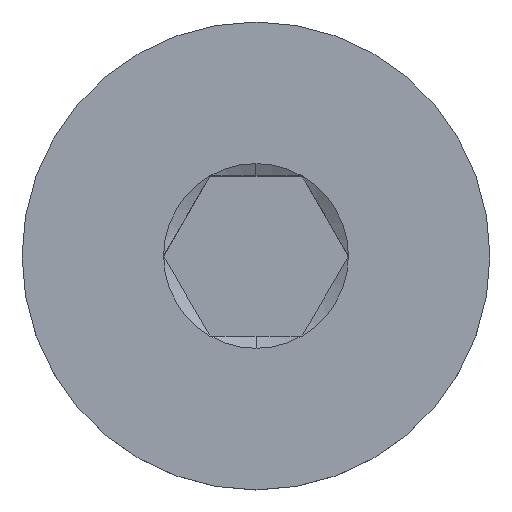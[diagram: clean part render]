
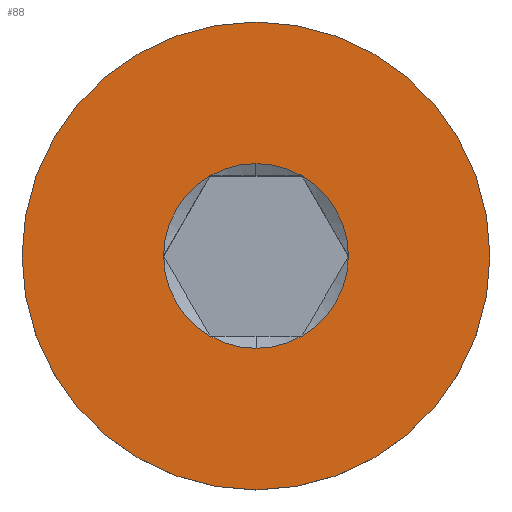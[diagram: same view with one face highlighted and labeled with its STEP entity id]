
A CAD part, top view. The second image highlights one B-rep face of the part: STEP entity #88.
In plain terms, the highlighted planar face has unit normal (0, 0, 1).
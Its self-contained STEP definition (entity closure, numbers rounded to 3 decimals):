
#58=FACE_BOUND('',#154,.F.);
#88=ADVANCED_FACE('',(#58,#121),#314,.T.);
#121=FACE_OUTER_BOUND('',#155,.F.);
#154=EDGE_LOOP('',(#203,#204,#205,#206,#207,#208,#209,#210));
#155=EDGE_LOOP('',(#211,#212));
#203=ORIENTED_EDGE('',*,*,#389,.T.);
#204=ORIENTED_EDGE('',*,*,#390,.T.);
#205=ORIENTED_EDGE('',*,*,#392,.T.);
#206=ORIENTED_EDGE('',*,*,#395,.T.);
#207=ORIENTED_EDGE('',*,*,#388,.T.);
#208=ORIENTED_EDGE('',*,*,#393,.T.);
#209=ORIENTED_EDGE('',*,*,#394,.T.);
#210=ORIENTED_EDGE('',*,*,#391,.T.);
#211=ORIENTED_EDGE('',*,*,#410,.F.);
#212=ORIENTED_EDGE('',*,*,#404,.F.);
#314=PLANE('',#543);
#388=EDGE_CURVE('',#507,#506,#452,.T.);
#389=EDGE_CURVE('',#505,#504,#453,.T.);
#390=EDGE_CURVE('',#504,#503,#454,.T.);
#391=EDGE_CURVE('',#502,#505,#455,.T.);
#392=EDGE_CURVE('',#503,#501,#456,.T.);
#393=EDGE_CURVE('',#506,#500,#457,.T.);
#394=EDGE_CURVE('',#500,#502,#458,.T.);
#395=EDGE_CURVE('',#501,#507,#459,.T.);
#404=EDGE_CURVE('',#493,#492,#466,.T.);
#410=EDGE_CURVE('',#492,#493,#468,.T.);
#452=CIRCLE('',#518,0.75);
#453=CIRCLE('',#519,0.75);
#454=CIRCLE('',#520,0.75);
#455=CIRCLE('',#521,0.75);
#456=CIRCLE('',#522,0.75);
#457=CIRCLE('',#523,0.75);
#458=CIRCLE('',#524,0.75);
#459=CIRCLE('',#525,0.75);
#466=CIRCLE('',#532,1.9);
#468=CIRCLE('',#534,1.9);
#492=VERTEX_POINT('',#750);
#493=VERTEX_POINT('',#751);
#500=VERTEX_POINT('',#758);
#501=VERTEX_POINT('',#759);
#502=VERTEX_POINT('',#760);
#503=VERTEX_POINT('',#761);
#504=VERTEX_POINT('',#762);
#505=VERTEX_POINT('',#763);
#506=VERTEX_POINT('',#764);
#507=VERTEX_POINT('',#765);
#518=AXIS2_PLACEMENT_3D('',#766,#583,#584);
#519=AXIS2_PLACEMENT_3D('',#767,#585,#586);
#520=AXIS2_PLACEMENT_3D('',#768,#587,#588);
#521=AXIS2_PLACEMENT_3D('',#769,#589,#590);
#522=AXIS2_PLACEMENT_3D('',#770,#591,#592);
#523=AXIS2_PLACEMENT_3D('',#771,#593,#594);
#524=AXIS2_PLACEMENT_3D('',#772,#595,#596);
#525=AXIS2_PLACEMENT_3D('',#773,#597,#598);
#532=AXIS2_PLACEMENT_3D('',#782,#613,#614);
#534=AXIS2_PLACEMENT_3D('',#788,#621,#622);
#543=AXIS2_PLACEMENT_3D('',#861,#655,#656);
#583=DIRECTION('',(0.,0.,1.));
#584=DIRECTION('',(0.499,-0.867,0.));
#585=DIRECTION('',(0.,0.,1.));
#586=DIRECTION('',(-0.499,0.867,0.));
#587=DIRECTION('',(0.,0.,1.));
#588=DIRECTION('',(-1.,0.,0.));
#589=DIRECTION('',(0.,0.,1.));
#590=DIRECTION('',(0.,1.,0.));
#591=DIRECTION('',(0.,0.,1.));
#592=DIRECTION('',(-0.499,-0.867,0.));
#593=DIRECTION('',(0.,0.,1.));
#594=DIRECTION('',(1.,0.,0.));
#595=DIRECTION('',(0.,0.,1.));
#596=DIRECTION('',(0.5,0.866,0.));
#597=DIRECTION('',(0.,0.,1.));
#598=DIRECTION('',(0.,-1.,0.));
#613=DIRECTION('',(0.,0.,1.));
#614=DIRECTION('',(0.,1.,0.));
#621=DIRECTION('',(0.,0.,1.));
#622=DIRECTION('',(0.,-1.,0.));
#655=DIRECTION('',(0.,0.,1.));
#656=DIRECTION('',(1.,0.,0.));
#750=CARTESIAN_POINT('',(-254.877,36.389,-951.914));
#751=CARTESIAN_POINT('',(-254.877,40.189,-951.914));
#758=CARTESIAN_POINT('',(-254.502,38.939,-951.913));
#759=CARTESIAN_POINT('',(-254.877,37.539,-951.914));
#760=CARTESIAN_POINT('',(-254.877,39.039,-951.914));
#761=CARTESIAN_POINT('',(-255.252,37.639,-951.913));
#762=CARTESIAN_POINT('',(-255.627,38.289,-951.914));
#763=CARTESIAN_POINT('',(-255.252,38.939,-951.913));
#764=CARTESIAN_POINT('',(-254.127,38.289,-951.914));
#765=CARTESIAN_POINT('',(-254.502,37.639,-951.913));
#766=CARTESIAN_POINT('',(-254.877,38.289,-951.914));
#767=CARTESIAN_POINT('',(-254.877,38.289,-951.914));
#768=CARTESIAN_POINT('',(-254.877,38.289,-951.914));
#769=CARTESIAN_POINT('',(-254.877,38.289,-951.914));
#770=CARTESIAN_POINT('',(-254.877,38.289,-951.914));
#771=CARTESIAN_POINT('',(-254.877,38.289,-951.914));
#772=CARTESIAN_POINT('',(-254.877,38.289,-951.914));
#773=CARTESIAN_POINT('',(-254.877,38.289,-951.914));
#782=CARTESIAN_POINT('',(-254.877,38.289,-951.914));
#788=CARTESIAN_POINT('',(-254.877,38.289,-951.914));
#861=CARTESIAN_POINT('',(-256.815,36.351,-951.914));
